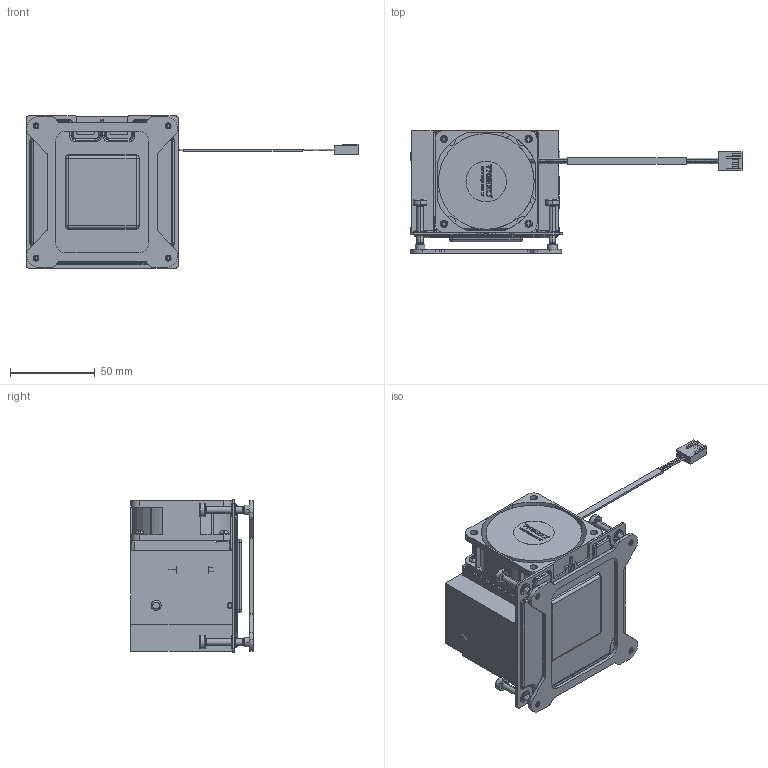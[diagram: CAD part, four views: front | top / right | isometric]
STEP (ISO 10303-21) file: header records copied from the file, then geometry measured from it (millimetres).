
FILE_DESCRIPTION((''),'2;1');
FILE_NAME('RGD3226VCHP-002_ME_ASM','2022-10-11T',('User'),(''),'PRO/ENGINEER BY PARAMETRIC TECHNOLOGY CORPORATION, 2017170','PRO/ENGINEER BY PARAMETRIC TECHNOLOGY CORPORATION, 2017170','');
FILE_SCHEMA(('CONFIG_CONTROL_DESIGN'));
Products named in the file (17): RGD3226VCHP_HEAT_PIPE_D_1_1; RGD3226VCHP_VC_D_1_1; RGD3226VCHP_FAN_COVER_D_1_1; FAN_PF60251BX-Q101-S99__1_1; LABEL_R24_1_1_1; T3_16L_SCREW_1_1; FAN_ASM_1_ASM_1_ASM; SCREW_1_1; NETW3_1_1; O_RING_1_1; SCREW_ASSY_ASM_1_ASM; 850-BP-1700_1_1; ADHESIVE_1_1; MYLAR_1_1; 850-BP1700_ASM_1_ASM; RGD3226VCHP-002_ASM_1_ASM; RGD3226VCHP-002_ME_ASM
Assembly tree (23 placements, depth 4):
  RGD3226VCHP-002_ME_ASM
    RGD3226VCHP-002_ASM_1_ASM
      RGD3226VCHP_HEAT_PIPE_D_1_1  x2
      RGD3226VCHP_VC_D_1_1
      RGD3226VCHP_FAN_COVER_D_1_1
      FAN_ASM_1_ASM_1_ASM
        FAN_PF60251BX-Q101-S99__1_1
        LABEL_R24_1_1_1
        T3_16L_SCREW_1_1  x4
      SCREW_ASSY_ASM_1_ASM  x4
        SCREW_1_1
        NETW3_1_1
        O_RING_1_1
      850-BP1700_ASM_1_ASM
        850-BP-1700_1_1
        ADHESIVE_1_1
        MYLAR_1_1
Bounding box: 195.96 x 72.3 x 90 mm (x, y, z)
Volume: 405929.2 mm3; surface area: 90747.5 mm2
Topology: 25 solids, 25 shells, 2238 faces, 6044 edges, 3856 vertices
Faces by surface type: cylinder 885, plane 844, bspline 135, extrusion 131, torus 130, sphere 79, cone 34
Entity records: 76023 total; most frequent: CARTESIAN_POINT 38924, ORIENTED_EDGE 8000, DIRECTION 7097, EDGE_CURVE 4000, VERTEX_POINT 2616, VECTOR 2385, AXIS2_PLACEMENT_3D 2356, LINE 2260
